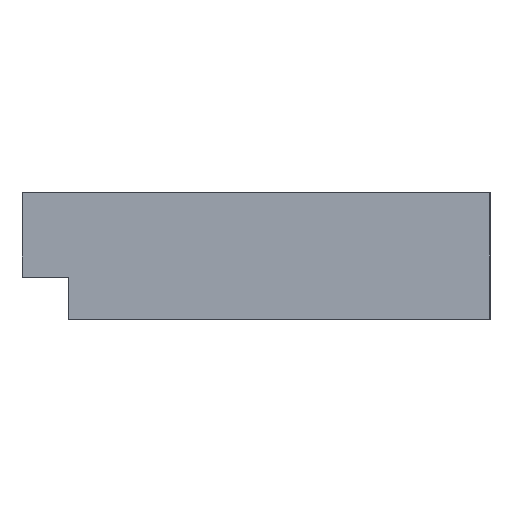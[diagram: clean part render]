
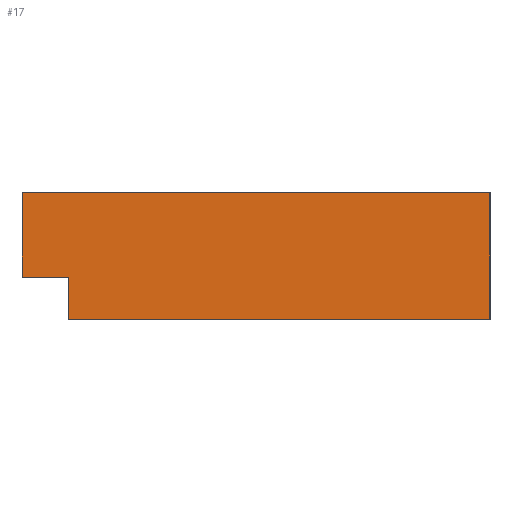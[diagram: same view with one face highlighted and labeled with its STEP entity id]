
A CAD part, left-side view. The second image highlights one B-rep face of the part: STEP entity #17.
In plain terms, the highlighted planar face has unit normal (-1, 0, 0).
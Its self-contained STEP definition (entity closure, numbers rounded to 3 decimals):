
#17 = ADVANCED_FACE('',(#18),#32,.F.);
#18 = FACE_BOUND('',#19,.F.);
#19 = EDGE_LOOP('',(#20,#55,#83,#111,#139,#167));
#20 = ORIENTED_EDGE('',*,*,#21,.F.);
#21 = EDGE_CURVE('',#22,#24,#26,.T.);
#22 = VERTEX_POINT('',#23);
#23 = CARTESIAN_POINT('',(14.,5.,2.8));
#24 = VERTEX_POINT('',#25);
#25 = CARTESIAN_POINT('',(14.,5.,5.5));
#26 = SURFACE_CURVE('',#27,(#31,#43),.PCURVE_S1.);
#27 = LINE('',#28,#29);
#28 = CARTESIAN_POINT('',(14.,5.,2.8));
#29 = VECTOR('',#30,1.);
#30 = DIRECTION('',(0.,0.,1.));
#31 = PCURVE('',#32,#37);
#32 = PLANE('',#33);
#33 = AXIS2_PLACEMENT_3D('',#34,#35,#36);
#34 = CARTESIAN_POINT('',(14.,5.,2.8));
#35 = DIRECTION('',(1.,0.,0.));
#36 = DIRECTION('',(0.,0.,1.));
#37 = DEFINITIONAL_REPRESENTATION('',(#38),#42);
#38 = LINE('',#39,#40);
#39 = CARTESIAN_POINT('',(0.,0.));
#40 = VECTOR('',#41,1.);
#41 = DIRECTION('',(1.,0.));
#42 = ( GEOMETRIC_REPRESENTATION_CONTEXT(2) 
PARAMETRIC_REPRESENTATION_CONTEXT() REPRESENTATION_CONTEXT('2D SPACE',''
  ) );
#43 = PCURVE('',#44,#49);
#44 = PLANE('',#45);
#45 = AXIS2_PLACEMENT_3D('',#46,#47,#48);
#46 = CARTESIAN_POINT('',(14.,5.,2.8));
#47 = DIRECTION('',(0.,1.,0.));
#48 = DIRECTION('',(0.,0.,1.));
#49 = DEFINITIONAL_REPRESENTATION('',(#50),#54);
#50 = LINE('',#51,#52);
#51 = CARTESIAN_POINT('',(0.,0.));
#52 = VECTOR('',#53,1.);
#53 = DIRECTION('',(1.,0.));
#54 = ( GEOMETRIC_REPRESENTATION_CONTEXT(2) 
PARAMETRIC_REPRESENTATION_CONTEXT() REPRESENTATION_CONTEXT('2D SPACE',''
  ) );
#55 = ORIENTED_EDGE('',*,*,#56,.T.);
#56 = EDGE_CURVE('',#22,#57,#59,.T.);
#57 = VERTEX_POINT('',#58);
#58 = CARTESIAN_POINT('',(14.,14.,2.8));
#59 = SURFACE_CURVE('',#60,(#64,#71),.PCURVE_S1.);
#60 = LINE('',#61,#62);
#61 = CARTESIAN_POINT('',(14.,5.,2.8));
#62 = VECTOR('',#63,1.);
#63 = DIRECTION('',(0.,1.,0.));
#64 = PCURVE('',#32,#65);
#65 = DEFINITIONAL_REPRESENTATION('',(#66),#70);
#66 = LINE('',#67,#68);
#67 = CARTESIAN_POINT('',(0.,0.));
#68 = VECTOR('',#69,1.);
#69 = DIRECTION('',(0.,-1.));
#70 = ( GEOMETRIC_REPRESENTATION_CONTEXT(2) 
PARAMETRIC_REPRESENTATION_CONTEXT() REPRESENTATION_CONTEXT('2D SPACE',''
  ) );
#71 = PCURVE('',#72,#77);
#72 = PLANE('',#73);
#73 = AXIS2_PLACEMENT_3D('',#74,#75,#76);
#74 = CARTESIAN_POINT('',(14.,5.,2.8));
#75 = DIRECTION('',(0.,0.,1.));
#76 = DIRECTION('',(1.,0.,0.));
#77 = DEFINITIONAL_REPRESENTATION('',(#78),#82);
#78 = LINE('',#79,#80);
#79 = CARTESIAN_POINT('',(0.,0.));
#80 = VECTOR('',#81,1.);
#81 = DIRECTION('',(0.,1.));
#82 = ( GEOMETRIC_REPRESENTATION_CONTEXT(2) 
PARAMETRIC_REPRESENTATION_CONTEXT() REPRESENTATION_CONTEXT('2D SPACE',''
  ) );
#83 = ORIENTED_EDGE('',*,*,#84,.T.);
#84 = EDGE_CURVE('',#57,#85,#87,.T.);
#85 = VERTEX_POINT('',#86);
#86 = CARTESIAN_POINT('',(14.,14.,3.7));
#87 = SURFACE_CURVE('',#88,(#92,#99),.PCURVE_S1.);
#88 = LINE('',#89,#90);
#89 = CARTESIAN_POINT('',(14.,14.,2.8));
#90 = VECTOR('',#91,1.);
#91 = DIRECTION('',(0.,0.,1.));
#92 = PCURVE('',#32,#93);
#93 = DEFINITIONAL_REPRESENTATION('',(#94),#98);
#94 = LINE('',#95,#96);
#95 = CARTESIAN_POINT('',(0.,-9.));
#96 = VECTOR('',#97,1.);
#97 = DIRECTION('',(1.,0.));
#98 = ( GEOMETRIC_REPRESENTATION_CONTEXT(2) 
PARAMETRIC_REPRESENTATION_CONTEXT() REPRESENTATION_CONTEXT('2D SPACE',''
  ) );
#99 = PCURVE('',#100,#105);
#100 = PLANE('',#101);
#101 = AXIS2_PLACEMENT_3D('',#102,#103,#104);
#102 = CARTESIAN_POINT('',(14.,14.,2.8));
#103 = DIRECTION('',(0.,1.,0.));
#104 = DIRECTION('',(0.,0.,1.));
#105 = DEFINITIONAL_REPRESENTATION('',(#106),#110);
#106 = LINE('',#107,#108);
#107 = CARTESIAN_POINT('',(0.,0.));
#108 = VECTOR('',#109,1.);
#109 = DIRECTION('',(1.,0.));
#110 = ( GEOMETRIC_REPRESENTATION_CONTEXT(2) 
PARAMETRIC_REPRESENTATION_CONTEXT() REPRESENTATION_CONTEXT('2D SPACE',''
  ) );
#111 = ORIENTED_EDGE('',*,*,#112,.T.);
#112 = EDGE_CURVE('',#85,#113,#115,.T.);
#113 = VERTEX_POINT('',#114);
#114 = CARTESIAN_POINT('',(14.,15.,3.7));
#115 = SURFACE_CURVE('',#116,(#120,#127),.PCURVE_S1.);
#116 = LINE('',#117,#118);
#117 = CARTESIAN_POINT('',(14.,13.,3.7));
#118 = VECTOR('',#119,1.);
#119 = DIRECTION('',(0.,1.,0.));
#120 = PCURVE('',#32,#121);
#121 = DEFINITIONAL_REPRESENTATION('',(#122),#126);
#122 = LINE('',#123,#124);
#123 = CARTESIAN_POINT('',(0.9,-8.));
#124 = VECTOR('',#125,1.);
#125 = DIRECTION('',(0.,-1.));
#126 = ( GEOMETRIC_REPRESENTATION_CONTEXT(2) 
PARAMETRIC_REPRESENTATION_CONTEXT() REPRESENTATION_CONTEXT('2D SPACE',''
  ) );
#127 = PCURVE('',#128,#133);
#128 = PLANE('',#129);
#129 = AXIS2_PLACEMENT_3D('',#130,#131,#132);
#130 = CARTESIAN_POINT('',(14.,13.,3.7));
#131 = DIRECTION('',(0.,0.,1.));
#132 = DIRECTION('',(1.,0.,0.));
#133 = DEFINITIONAL_REPRESENTATION('',(#134),#138);
#134 = LINE('',#135,#136);
#135 = CARTESIAN_POINT('',(0.,0.));
#136 = VECTOR('',#137,1.);
#137 = DIRECTION('',(0.,1.));
#138 = ( GEOMETRIC_REPRESENTATION_CONTEXT(2) 
PARAMETRIC_REPRESENTATION_CONTEXT() REPRESENTATION_CONTEXT('2D SPACE',''
  ) );
#139 = ORIENTED_EDGE('',*,*,#140,.T.);
#140 = EDGE_CURVE('',#113,#141,#143,.T.);
#141 = VERTEX_POINT('',#142);
#142 = CARTESIAN_POINT('',(14.,15.,5.5));
#143 = SURFACE_CURVE('',#144,(#148,#155),.PCURVE_S1.);
#144 = LINE('',#145,#146);
#145 = CARTESIAN_POINT('',(14.,15.,3.7));
#146 = VECTOR('',#147,1.);
#147 = DIRECTION('',(0.,0.,1.));
#148 = PCURVE('',#32,#149);
#149 = DEFINITIONAL_REPRESENTATION('',(#150),#154);
#150 = LINE('',#151,#152);
#151 = CARTESIAN_POINT('',(0.9,-10.));
#152 = VECTOR('',#153,1.);
#153 = DIRECTION('',(1.,0.));
#154 = ( GEOMETRIC_REPRESENTATION_CONTEXT(2) 
PARAMETRIC_REPRESENTATION_CONTEXT() REPRESENTATION_CONTEXT('2D SPACE',''
  ) );
#155 = PCURVE('',#156,#161);
#156 = PLANE('',#157);
#157 = AXIS2_PLACEMENT_3D('',#158,#159,#160);
#158 = CARTESIAN_POINT('',(14.,15.,3.7));
#159 = DIRECTION('',(0.,1.,0.));
#160 = DIRECTION('',(0.,0.,1.));
#161 = DEFINITIONAL_REPRESENTATION('',(#162),#166);
#162 = LINE('',#163,#164);
#163 = CARTESIAN_POINT('',(0.,0.));
#164 = VECTOR('',#165,1.);
#165 = DIRECTION('',(1.,0.));
#166 = ( GEOMETRIC_REPRESENTATION_CONTEXT(2) 
PARAMETRIC_REPRESENTATION_CONTEXT() REPRESENTATION_CONTEXT('2D SPACE',''
  ) );
#167 = ORIENTED_EDGE('',*,*,#168,.F.);
#168 = EDGE_CURVE('',#24,#141,#169,.T.);
#169 = SURFACE_CURVE('',#170,(#174,#181),.PCURVE_S1.);
#170 = LINE('',#171,#172);
#171 = CARTESIAN_POINT('',(14.,5.,5.5));
#172 = VECTOR('',#173,1.);
#173 = DIRECTION('',(0.,1.,0.));
#174 = PCURVE('',#32,#175);
#175 = DEFINITIONAL_REPRESENTATION('',(#176),#180);
#176 = LINE('',#177,#178);
#177 = CARTESIAN_POINT('',(2.7,0.));
#178 = VECTOR('',#179,1.);
#179 = DIRECTION('',(0.,-1.));
#180 = ( GEOMETRIC_REPRESENTATION_CONTEXT(2) 
PARAMETRIC_REPRESENTATION_CONTEXT() REPRESENTATION_CONTEXT('2D SPACE',''
  ) );
#181 = PCURVE('',#182,#187);
#182 = PLANE('',#183);
#183 = AXIS2_PLACEMENT_3D('',#184,#185,#186);
#184 = CARTESIAN_POINT('',(14.,5.,5.5));
#185 = DIRECTION('',(0.,0.,1.));
#186 = DIRECTION('',(1.,0.,0.));
#187 = DEFINITIONAL_REPRESENTATION('',(#188),#192);
#188 = LINE('',#189,#190);
#189 = CARTESIAN_POINT('',(0.,0.));
#190 = VECTOR('',#191,1.);
#191 = DIRECTION('',(0.,1.));
#192 = ( GEOMETRIC_REPRESENTATION_CONTEXT(2) 
PARAMETRIC_REPRESENTATION_CONTEXT() REPRESENTATION_CONTEXT('2D SPACE',''
  ) );
